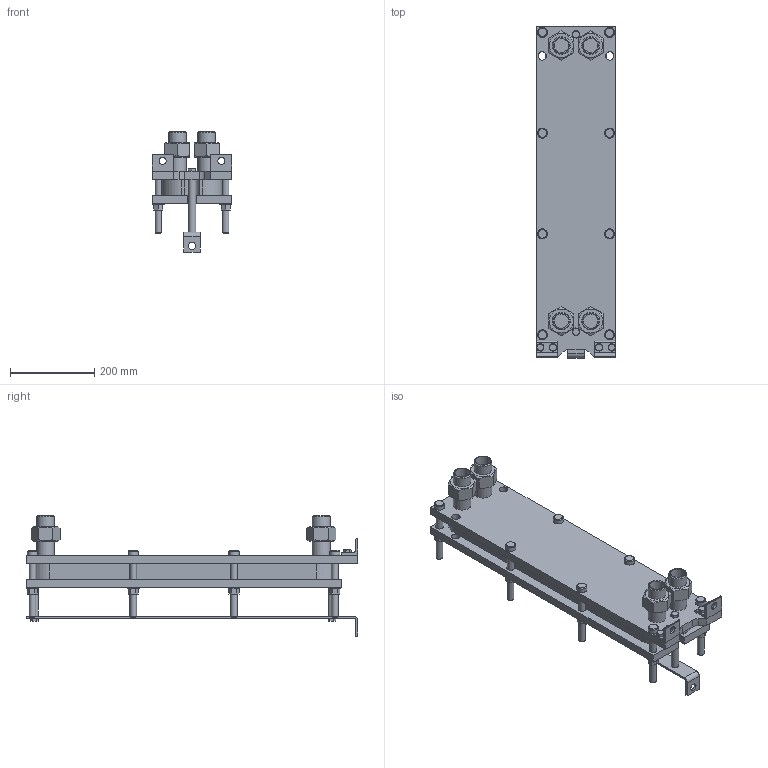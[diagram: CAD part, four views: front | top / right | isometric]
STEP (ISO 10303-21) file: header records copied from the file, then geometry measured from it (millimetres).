
FILE_DESCRIPTION(/* description */ (''),/* implementation_level */ '2;1');
FILE_NAME(/* name */ 'C:\Users\zhuro\Desktop\ENCO\TO\ЭН-008\ЭН-0,5-008-12-1.stp',/* time_stamp */ '2022-06-06T10:45:54+03:00',/* author */ ('zhuro'),/* organization */ (''),/* preprocessor_version */ 'ST-DEVELOPER v18.1',/* originating_system */ 'Autodesk Inventor 2022',/* authorisation */ '');
FILE_SCHEMA (('AUTOMOTIVE_DESIGN { 1 0 10303 214 3 1 1 }'));
Length unit declared in the file: millimetre
Products named in the file (1): ЭН-0,5-008-12-1
Bounding box: 190 x 790 x 286.6 mm (x, y, z)
Volume: 10392105.4 mm3; surface area: 1277147.7 mm2
Topology: 40 solids, 40 shells, 428 faces, 924 edges, 606 vertices
Faces by surface type: plane 273, cylinder 109, cone 40, torus 6
Full cylindrical faces by diameter (mm): 12 x6, 14 x2, 16 x20, 17 x8, 18 x19, 20 x5, 24 x8, 28 x8, 34.3 x8, 42.3 x8
Entity records: 15843 total; most frequent: CARTESIAN_POINT 5991, DIRECTION 1984, ORIENTED_EDGE 1848, EDGE_CURVE 924, AXIS2_PLACEMENT_3D 715, VERTEX_POINT 606, LINE 554, VECTOR 554
